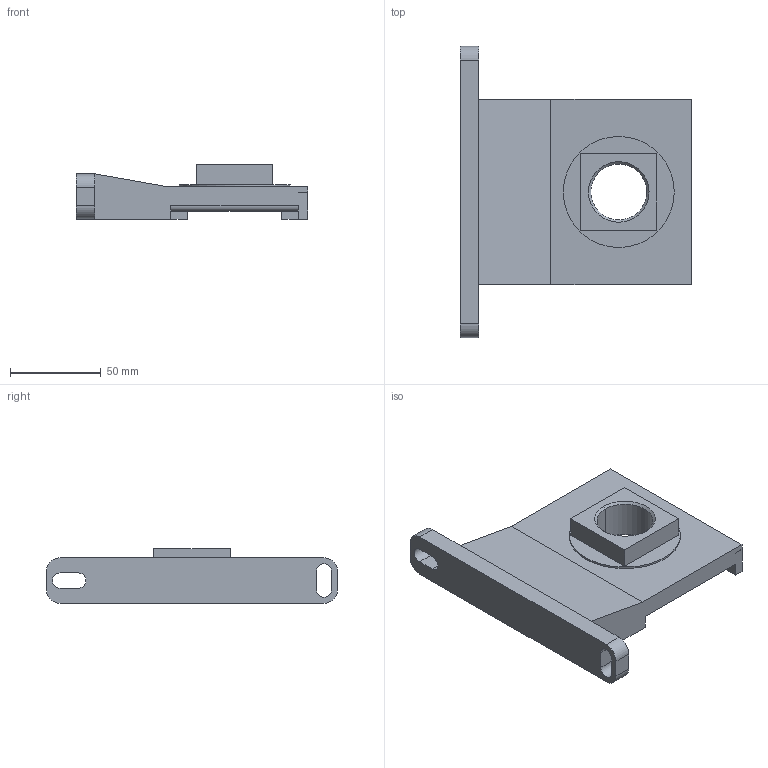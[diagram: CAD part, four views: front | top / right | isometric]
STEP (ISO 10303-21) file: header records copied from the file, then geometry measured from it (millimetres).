
FILE_DESCRIPTION((''),'2;1');
FILE_NAME('R412009367','2015-05-12T',('pma1hc'),(''),'PRO/ENGINEER BY PARAMETRIC TECHNOLOGY CORPORATION, 2011490','PRO/ENGINEER BY PARAMETRIC TECHNOLOGY CORPORATION, 2011490','');
FILE_SCHEMA(('AUTOMOTIVE_DESIGN_CC2 { 1 2 10303 214 -1 1 5 2 }'));
Length unit declared in the file: millimetre
Products named in the file (1): R412009367
Bounding box: 127 x 160 x 30 mm (x, y, z)
Volume: 208018.2 mm3; surface area: 52652.1 mm2
Topology: 1 solids, 1 shells, 132 faces, 356 edges, 232 vertices
Faces by surface type: plane 98, cylinder 30, cone 4
Entity records: 4139 total; most frequent: CARTESIAN_POINT 720, ORIENTED_EDGE 712, DIRECTION 690, EDGE_CURVE 356, VECTOR 286, LINE 286, VERTEX_POINT 232, AXIS2_PLACEMENT_3D 202
